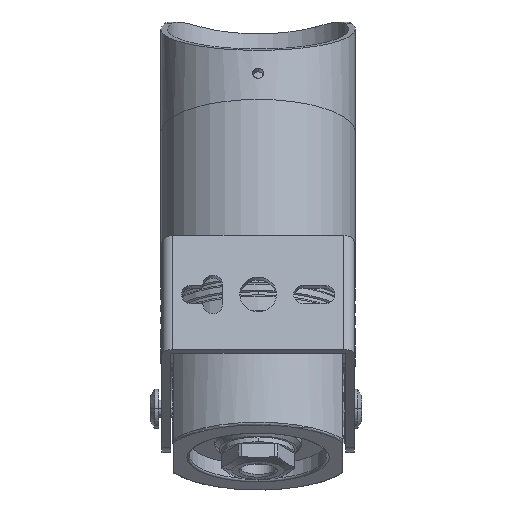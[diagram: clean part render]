
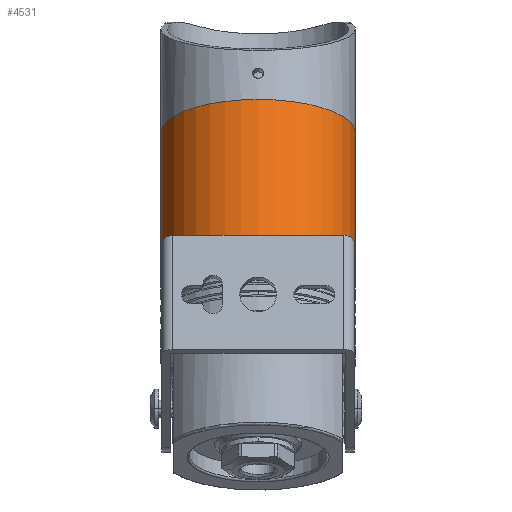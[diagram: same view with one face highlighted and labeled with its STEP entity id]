
A CAD part, front view. The second image highlights one B-rep face of the part: STEP entity #4531.
In plain terms, the highlighted cylindrical face has radius 22.5 mm (diameter 45 mm), a partial arc.
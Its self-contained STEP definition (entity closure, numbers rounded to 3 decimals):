
#1060=CARTESIAN_POINT('',(-7.,0.,0.));
#1061=DIRECTION('',(-1.,0.,0.));
#1062=DIRECTION('',(0.,-1.,0.));
#1063=AXIS2_PLACEMENT_3D('',#1060,#1061,#1062);
#1065=CARTESIAN_POINT('',(-7.,0.,0.));
#1066=DIRECTION('',(-1.,0.,0.));
#1067=DIRECTION('',(0.,0.,1.));
#1068=AXIS2_PLACEMENT_3D('',#1065,#1066,#1067);
#1090=DIRECTION('',(1.,0.,0.));
#1091=VECTOR('',#1090,37.);
#1092=CARTESIAN_POINT('',(-48.,0.,22.5));
#1093=LINE('',#1092,#1091);
#1094=CARTESIAN_POINT('',(-11.,0.,0.));
#1095=DIRECTION('',(-1.,0.,0.));
#1096=DIRECTION('',(0.,0.,1.));
#1097=AXIS2_PLACEMENT_3D('',#1094,#1095,#1096);
#1099=DIRECTION('',(1.,0.,0.));
#1100=VECTOR('',#1099,1.5);
#1101=CARTESIAN_POINT('',(-11.,22.5,0.));
#1102=LINE('',#1101,#1100);
#1103=DIRECTION('',(1.,0.,0.));
#1104=VECTOR('',#1103,1.5);
#1105=CARTESIAN_POINT('',(-9.5,0.,22.5));
#1106=LINE('',#1105,#1104);
#1107=CARTESIAN_POINT('',(-8.,0.,0.));
#1108=DIRECTION('',(-1.,0.,0.));
#1109=DIRECTION('',(0.,0.,1.));
#1110=AXIS2_PLACEMENT_3D('',#1107,#1108,#1109);
#1112=DIRECTION('',(1.,0.,0.));
#1113=VECTOR('',#1112,1.);
#1114=CARTESIAN_POINT('',(-8.,22.5,0.));
#1115=LINE('',#1114,#1113);
#1116=DIRECTION('',(-1.,0.,0.));
#1117=VECTOR('',#1116,1.5);
#1118=CARTESIAN_POINT('',(-8.,0.,-22.5));
#1119=LINE('',#1118,#1117);
#1120=CARTESIAN_POINT('',(-9.5,0.,0.));
#1121=DIRECTION('',(-1.,0.,0.));
#1122=DIRECTION('',(0.,0.,-1.));
#1123=AXIS2_PLACEMENT_3D('',#1120,#1121,#1122);
#1125=DIRECTION('',(-1.,0.,0.));
#1126=VECTOR('',#1125,37.);
#1127=CARTESIAN_POINT('',(-11.,0.,-22.5));
#1128=LINE('',#1127,#1126);
#1134=CARTESIAN_POINT('',(-48.,0.,0.));
#1135=DIRECTION('',(1.,0.,0.));
#1136=DIRECTION('',(0.,0.,1.));
#1137=AXIS2_PLACEMENT_3D('',#1134,#1135,#1136);
#1149=CARTESIAN_POINT('',(-11.,0.,0.));
#1150=DIRECTION('',(-1.,0.,0.));
#1151=DIRECTION('',(0.,0.,-1.));
#1152=AXIS2_PLACEMENT_3D('',#1149,#1150,#1151);
#1154=DIRECTION('',(1.,0.,0.));
#1155=VECTOR('',#1154,1.5);
#1156=CARTESIAN_POINT('',(-11.,-22.5,0.));
#1157=LINE('',#1156,#1155);
#1158=CARTESIAN_POINT('',(-8.,0.,0.));
#1159=DIRECTION('',(-1.,0.,0.));
#1160=DIRECTION('',(0.,0.,-1.));
#1161=AXIS2_PLACEMENT_3D('',#1158,#1159,#1160);
#1163=DIRECTION('',(1.,0.,0.));
#1164=VECTOR('',#1163,1.);
#1165=CARTESIAN_POINT('',(-8.,-22.5,0.));
#1166=LINE('',#1165,#1164);
#1167=CARTESIAN_POINT('',(-9.5,0.,0.));
#1168=DIRECTION('',(-1.,0.,0.));
#1169=DIRECTION('',(0.,0.,1.));
#1170=AXIS2_PLACEMENT_3D('',#1167,#1168,#1169);
#3138=CARTESIAN_POINT('',(-7.,-22.5,0.));
#3139=CARTESIAN_POINT('',(-7.,0.,22.5));
#3140=VERTEX_POINT('',#3138);
#3141=VERTEX_POINT('',#3139);
#3142=CARTESIAN_POINT('',(-7.,22.5,0.));
#3143=VERTEX_POINT('',#3142);
#3146=CARTESIAN_POINT('',(-48.,0.,22.5));
#3147=CARTESIAN_POINT('',(-48.,0.,-22.5));
#3148=VERTEX_POINT('',#3146);
#3149=VERTEX_POINT('',#3147);
#3150=CARTESIAN_POINT('',(-11.,0.,22.5));
#3151=VERTEX_POINT('',#3150);
#3152=CARTESIAN_POINT('',(-11.,22.5,0.));
#3153=VERTEX_POINT('',#3152);
#3154=CARTESIAN_POINT('',(-9.5,22.5,0.));
#3155=VERTEX_POINT('',#3154);
#3156=CARTESIAN_POINT('',(-9.5,0.,22.5));
#3157=VERTEX_POINT('',#3156);
#3158=CARTESIAN_POINT('',(-8.,0.,22.5));
#3159=VERTEX_POINT('',#3158);
#3160=CARTESIAN_POINT('',(-8.,22.5,0.));
#3161=VERTEX_POINT('',#3160);
#3162=CARTESIAN_POINT('',(-8.,-22.5,0.));
#3163=VERTEX_POINT('',#3162);
#3164=CARTESIAN_POINT('',(-8.,0.,-22.5));
#3165=VERTEX_POINT('',#3164);
#3166=CARTESIAN_POINT('',(-9.5,0.,-22.5));
#3167=VERTEX_POINT('',#3166);
#3168=CARTESIAN_POINT('',(-9.5,-22.5,0.));
#3169=VERTEX_POINT('',#3168);
#3170=CARTESIAN_POINT('',(-11.,-22.5,0.));
#3171=VERTEX_POINT('',#3170);
#3172=CARTESIAN_POINT('',(-11.,0.,-22.5));
#3173=VERTEX_POINT('',#3172);
#4492=CARTESIAN_POINT('',(1.85,0.,0.));
#4493=DIRECTION('',(1.,0.,0.));
#4494=DIRECTION('',(0.,0.,-1.));
#4495=AXIS2_PLACEMENT_3D('',#4492,#4493,#4494);
#4496=CYLINDRICAL_SURFACE('',#4495,22.5);
#4498=ORIENTED_EDGE('',*,*,#4497,.F.);
#4500=ORIENTED_EDGE('',*,*,#4499,.T.);
#4502=ORIENTED_EDGE('',*,*,#4501,.T.);
#4504=ORIENTED_EDGE('',*,*,#4503,.T.);
#4506=ORIENTED_EDGE('',*,*,#4505,.F.);
#4508=ORIENTED_EDGE('',*,*,#4507,.T.);
#4510=ORIENTED_EDGE('',*,*,#4509,.T.);
#4512=ORIENTED_EDGE('',*,*,#4511,.T.);
#4513=ORIENTED_EDGE('',*,*,#4479,.F.);
#4514=ORIENTED_EDGE('',*,*,#4477,.F.);
#4516=ORIENTED_EDGE('',*,*,#4515,.F.);
#4518=ORIENTED_EDGE('',*,*,#4517,.F.);
#4520=ORIENTED_EDGE('',*,*,#4519,.T.);
#4522=ORIENTED_EDGE('',*,*,#4521,.T.);
#4524=ORIENTED_EDGE('',*,*,#4523,.F.);
#4526=ORIENTED_EDGE('',*,*,#4525,.F.);
#4528=ORIENTED_EDGE('',*,*,#4527,.T.);
#4529=EDGE_LOOP('',(#4498,#4500,#4502,#4504,#4506,#4508,#4510,#4512,#4513,#4514,
#4516,#4518,#4520,#4522,#4524,#4526,#4528));
#4530=FACE_OUTER_BOUND('',#4529,.F.);
#4531=ADVANCED_FACE('',(#4530),#4496,.T.);
#1064=CIRCLE('',#1063,22.5);
#1069=CIRCLE('',#1068,22.5);
#1098=CIRCLE('',#1097,22.5);
#1111=CIRCLE('',#1110,22.5);
#1124=CIRCLE('',#1123,22.5);
#1138=CIRCLE('',#1137,22.5);
#1153=CIRCLE('',#1152,22.5);
#1162=CIRCLE('',#1161,22.5);
#1171=CIRCLE('',#1170,22.5);
#4477=EDGE_CURVE('',#3140,#3141,#1064,.T.);
#4479=EDGE_CURVE('',#3141,#3143,#1069,.T.);
#4497=EDGE_CURVE('',#3148,#3149,#1138,.T.);
#4499=EDGE_CURVE('',#3148,#3151,#1093,.T.);
#4501=EDGE_CURVE('',#3151,#3153,#1098,.T.);
#4503=EDGE_CURVE('',#3153,#3155,#1102,.T.);
#4505=EDGE_CURVE('',#3157,#3155,#1171,.T.);
#4507=EDGE_CURVE('',#3157,#3159,#1106,.T.);
#4509=EDGE_CURVE('',#3159,#3161,#1111,.T.);
#4511=EDGE_CURVE('',#3161,#3143,#1115,.T.);
#4515=EDGE_CURVE('',#3163,#3140,#1166,.T.);
#4517=EDGE_CURVE('',#3165,#3163,#1162,.T.);
#4519=EDGE_CURVE('',#3165,#3167,#1119,.T.);
#4521=EDGE_CURVE('',#3167,#3169,#1124,.T.);
#4523=EDGE_CURVE('',#3171,#3169,#1157,.T.);
#4525=EDGE_CURVE('',#3173,#3171,#1153,.T.);
#4527=EDGE_CURVE('',#3173,#3149,#1128,.T.);
